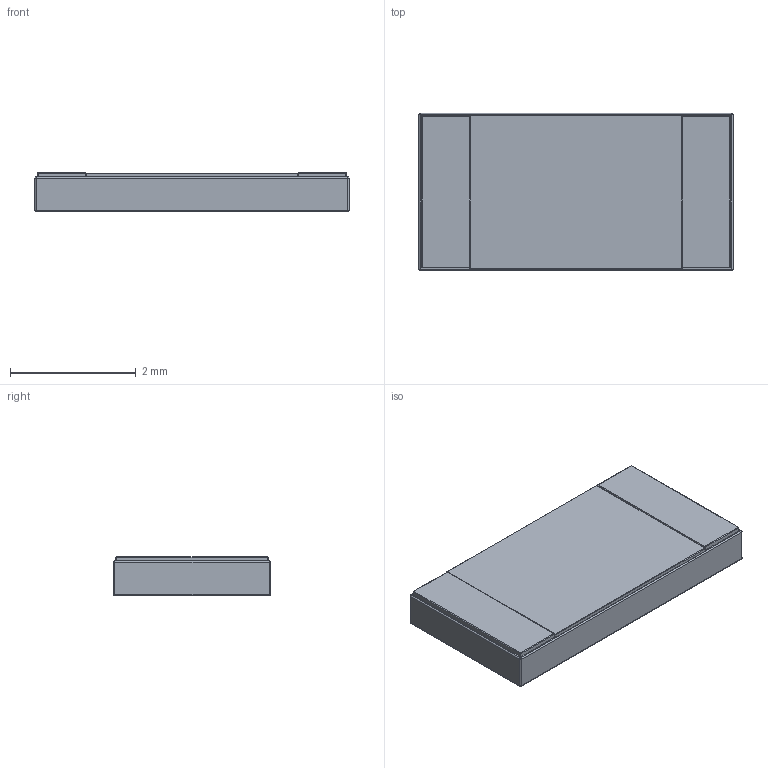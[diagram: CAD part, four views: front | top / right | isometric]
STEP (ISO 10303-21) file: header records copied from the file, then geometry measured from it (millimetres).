
FILE_DESCRIPTION(('STEP AP203'), '1');
FILE_NAME('R2-105-2010', '', ('UNSPECIFIED'), ('UNSPECIFIED'), 'ASCON STEP Converter 1.6', 'ASCON Math Kernel', '');
FILE_SCHEMA(('CONFIG_CONTROL_DESIGN'));
Length unit declared in the file: millimetre
Bounding box: 5 x 2.5 x 0.62 mm (x, y, z)
Volume: 7.6 mm3; surface area: 58.8 mm2
Topology: 4 solids, 5 shells, 91 faces, 207 edges, 110 vertices
Faces by surface type: plane 39, cylinder 36, sphere 16
Entity records: 3165 total; most frequent: DIRECTION 435, CARTESIAN_POINT 405, ORIENTED_EDGE 382, EDGE_CURVE 191, AXIS2_PLACEMENT_3D 156, LINE 123, VECTOR 123, VERTEX_POINT 110
